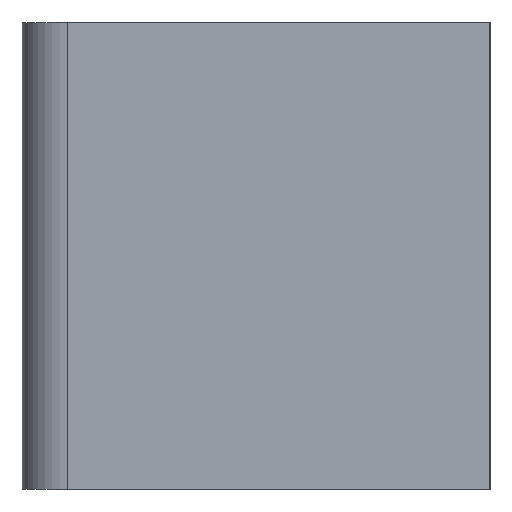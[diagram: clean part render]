
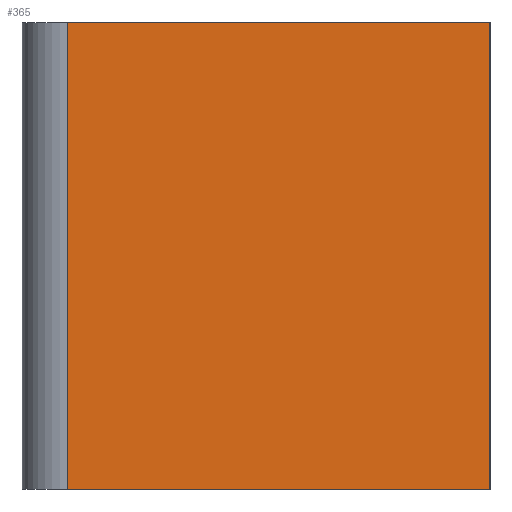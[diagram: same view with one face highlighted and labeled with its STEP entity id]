
A CAD part, left-side view. The second image highlights one B-rep face of the part: STEP entity #365.
In plain terms, the highlighted planar face has unit normal (-1, 0, 0).
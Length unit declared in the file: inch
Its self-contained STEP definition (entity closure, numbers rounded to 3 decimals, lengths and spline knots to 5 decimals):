
#309=CARTESIAN_POINT('',(-0.88583,0.,1.0));
#310=VERTEX_POINT('',#309);
#317=CARTESIAN_POINT('',(-0.88583,0.,0.0));
#318=VERTEX_POINT('',#317);
#319=CARTESIAN_POINT('',(-0.88583,0.,0.0));
#320=DIRECTION('',(0.0,0.0,1.0));
#321=VECTOR('',#320,1.0);
#322=LINE('',#319,#321);
#323=EDGE_CURVE('',#318,#310,#322,.T.);
#335=CARTESIAN_POINT('',(-0.88583,0.,0.0));
#336=DIRECTION('',(-1.0,0.0,0.0));
#337=DIRECTION('',(0.0,0.0,1.0));
#338=AXIS2_PLACEMENT_3D('',#335,#336,#337);
#339=PLANE('',#338);
#340=CARTESIAN_POINT('',(-0.88583,0.90551,1.0));
#341=VERTEX_POINT('',#340);
#342=CARTESIAN_POINT('',(-0.88583,0.,1.0));
#343=DIRECTION('',(0.0,1.0,0.0));
#344=VECTOR('',#343,0.90551);
#345=LINE('',#342,#344);
#346=EDGE_CURVE('',#310,#341,#345,.T.);
#347=ORIENTED_EDGE('',*,*,#346,.T.);
#348=CARTESIAN_POINT('',(-0.88583,0.90551,0.0));
#349=VERTEX_POINT('',#348);
#350=CARTESIAN_POINT('',(-0.88583,0.90551,0.0));
#351=DIRECTION('',(0.0,0.0,1.0));
#352=VECTOR('',#351,1.0);
#353=LINE('',#350,#352);
#354=EDGE_CURVE('',#349,#341,#353,.T.);
#355=ORIENTED_EDGE('',*,*,#354,.F.);
#356=CARTESIAN_POINT('',(-0.88583,0.90551,0.0));
#357=DIRECTION('',(0.0,-1.0,0.0));
#358=VECTOR('',#357,0.90551);
#359=LINE('',#356,#358);
#360=EDGE_CURVE('',#349,#318,#359,.T.);
#361=ORIENTED_EDGE('',*,*,#360,.T.);
#362=ORIENTED_EDGE('',*,*,#323,.T.);
#363=EDGE_LOOP('',(#347,#355,#361,#362));
#364=FACE_OUTER_BOUND('',#363,.T.);
#365=ADVANCED_FACE('',(#364),#339,.T.);
